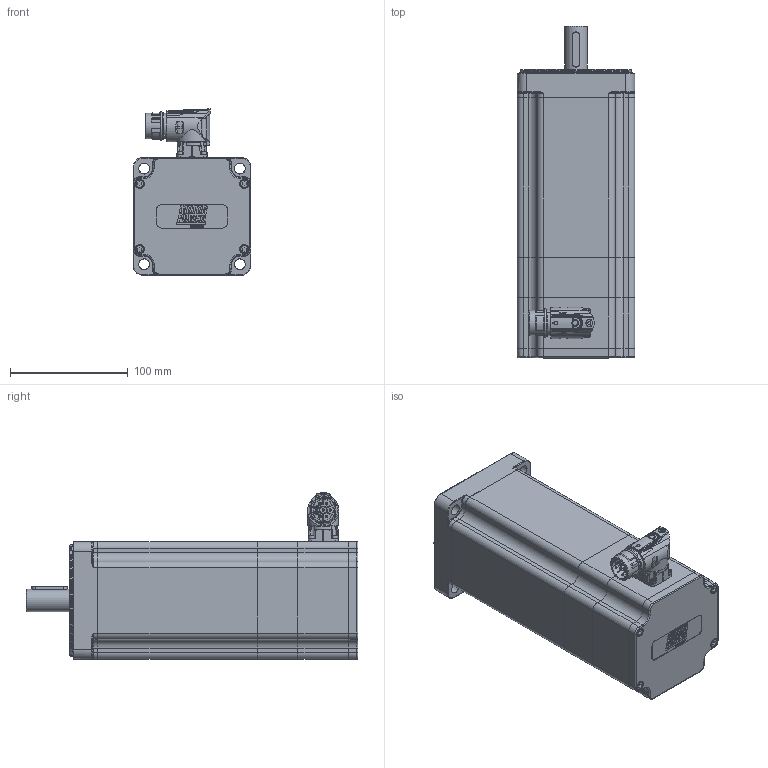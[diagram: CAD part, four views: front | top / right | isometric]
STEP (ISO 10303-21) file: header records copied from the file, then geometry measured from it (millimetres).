
FILE_DESCRIPTION(/* description */ ('Unknown'),/* implementation_level */ '2;1');
FILE_NAME(/* name */ 'TC4-100.4B.XX.X.2.M1.1.1.C21.31.80 Q0BQ19',/* time_stamp */ '2026-03-04T16:57:23+01:00',/* author */ ('Unknown'),/* organization */ ('Unknown'),/* preprocessor_version */ 'ST-DEVELOPER v19.4',/* originating_system */ 'Solid Edge',/* authorisation */ 'Unknown');
FILE_SCHEMA (('AUTOMOTIVE_DESIGN {1 0 10303 214 3 1 1}'));
Products named in the file (17): Q0BQ19 4B FRENO M1 VUOTO; 003107003287; 005911000185; 005119000312; 003151003169; 005911000211; 003103040222; 005008000790_oa_0; 003155002195; 005113000500; 005911000208; 003003200461; 005008000790_oa_1; 003251040721; 005911000252; 005008000790_oa_2; 007117000456
Assembly tree (28 placements, depth 2):
  Q0BQ19 4B FRENO M1 VUOTO
    003107003287
    005911000185  x4
    005119000312
    003151003169
    005911000211  x4
    003103040222
    005008000790_oa_0
    003155002195
    005113000500
    005911000208  x4
    003003200461
    005008000790_oa_1
    003251040721
    005911000252  x4
    005008000790_oa_2
    007117000456
Bounding box: 100 x 282 x 141.5 mm (x, y, z)
Volume: 823921 mm3; surface area: 302988.7 mm2
Topology: 30 solids, 30 shells, 1850 faces, 4566 edges, 2904 vertices
Faces by surface type: plane 859, cylinder 420, bspline 228, cone 183, torus 110, sphere 50
Full cylindrical faces by diameter (mm): 1 x4, 1.4 x4, 2 x4, 2.013 x4, 2.459 x2, 2.5 x4, 2.8 x4, 3 x8, 3.2 x1, 3.242 x46, 3.3 x1, 4 x13, 4.5 x17, 4.7 x4, 4.917 x1, 5.5 x1, 5.8 x1, 5.9 x1, 6 x1, 6.4 x1, 6.8 x1, 7 x12, 8 x10, 8.004 x4, 10 x1, 16 x1, 16.99 x1, 17 x1, 17.4 x1, 19 x1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
Entity records: 64257 total; most frequent: CARTESIAN_POINT 16773, ORIENTED_EDGE 7444, DIRECTION 7072, EDGE_CURVE 3722, AXIS2_PLACEMENT_3D 2676, VERTEX_POINT 2579, FACE_BOUND 2239, EDGE_LOOP 2211
